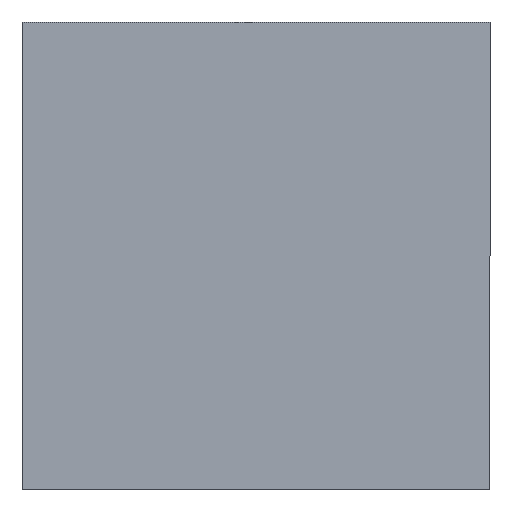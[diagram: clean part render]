
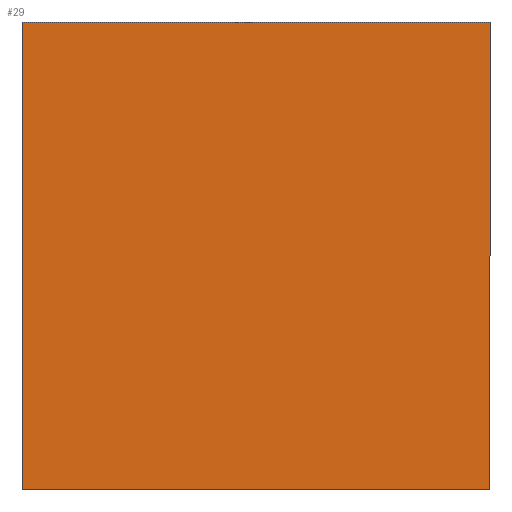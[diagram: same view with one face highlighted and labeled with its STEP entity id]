
A CAD part, front view. The second image highlights one B-rep face of the part: STEP entity #29.
In plain terms, the highlighted planar face has unit normal (0, -1, 0).
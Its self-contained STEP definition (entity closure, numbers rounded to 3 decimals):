
#5 = CARTESIAN_POINT ( 'NONE',  ( -145., 0., 0. ) ) ;
#16 = VECTOR ( 'NONE', #207, 1000. ) ;
#27 = VECTOR ( 'NONE', #186, 1000. ) ;
#28 = ORIENTED_EDGE ( 'NONE', *, *, #289, .F. ) ;
#29 = ADVANCED_FACE ( 'NONE', ( #198 ), #152, .F. ) ;
#36 = ORIENTED_EDGE ( 'NONE', *, *, #213, .F. ) ;
#39 = EDGE_LOOP ( 'NONE', ( #255, #36, #214, #28 ) ) ;
#42 = CARTESIAN_POINT ( 'NONE',  ( -145., 0., -290. ) ) ;
#69 = CARTESIAN_POINT ( 'NONE',  ( -145., 0., -290. ) ) ;
#76 = LINE ( 'NONE', #69, #16 ) ;
#78 = VERTEX_POINT ( 'NONE', #124 ) ;
#89 = VECTOR ( 'NONE', #240, 1000. ) ;
#102 = LINE ( 'NONE', #5, #27 ) ;
#103 = DIRECTION ( 'NONE',  ( 0., 1., 0. ) ) ;
#109 = CARTESIAN_POINT ( 'NONE',  ( 145., 0., -290. ) ) ;
#124 = CARTESIAN_POINT ( 'NONE',  ( -145., 0., 0. ) ) ;
#140 = CARTESIAN_POINT ( 'NONE',  ( 145., 0., 0. ) ) ;
#141 = VECTOR ( 'NONE', #290, 1000. ) ;
#145 = EDGE_CURVE ( 'NONE', #265, #264, #191, .T. ) ;
#148 = VERTEX_POINT ( 'NONE', #161 ) ;
#152 = PLANE ( 'NONE',  #262 ) ;
#161 = CARTESIAN_POINT ( 'NONE',  ( -145., 0., -290. ) ) ;
#170 = CARTESIAN_POINT ( 'NONE',  ( 0., 0., 0. ) ) ;
#186 = DIRECTION ( 'NONE',  ( 1., 0., 0. ) ) ;
#191 = LINE ( 'NONE', #109, #89 ) ;
#198 = FACE_OUTER_BOUND ( 'NONE', #39, .T. ) ;
#206 = LINE ( 'NONE', #42, #141 ) ;
#207 = DIRECTION ( 'NONE',  ( 0., 0., 1. ) ) ;
#213 = EDGE_CURVE ( 'NONE', #264, #148, #206, .T. ) ;
#214 = ORIENTED_EDGE ( 'NONE', *, *, #145, .F. ) ;
#240 = DIRECTION ( 'NONE',  ( 0., 0., -1. ) ) ;
#251 = CARTESIAN_POINT ( 'NONE',  ( 145., 0., -290. ) ) ;
#255 = ORIENTED_EDGE ( 'NONE', *, *, #268, .F. ) ;
#257 = DIRECTION ( 'NONE',  ( 0., 0., 1. ) ) ;
#262 = AXIS2_PLACEMENT_3D ( 'NONE', #170, #103, #257 ) ;
#264 = VERTEX_POINT ( 'NONE', #251 ) ;
#265 = VERTEX_POINT ( 'NONE', #140 ) ;
#268 = EDGE_CURVE ( 'NONE', #148, #78, #76, .T. ) ;
#289 = EDGE_CURVE ( 'NONE', #78, #265, #102, .T. ) ;
#290 = DIRECTION ( 'NONE',  ( -1., 0., 0. ) ) ;
